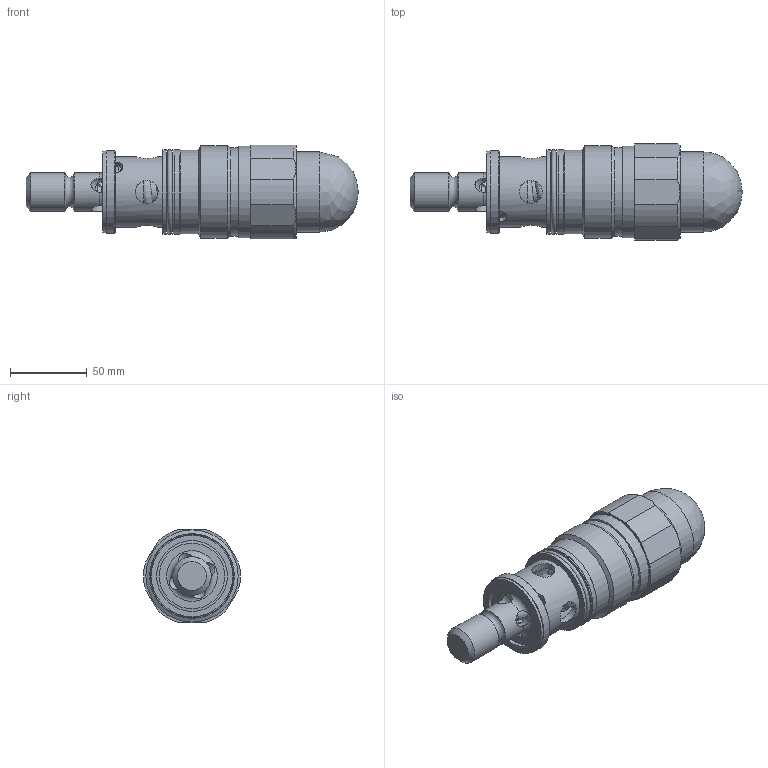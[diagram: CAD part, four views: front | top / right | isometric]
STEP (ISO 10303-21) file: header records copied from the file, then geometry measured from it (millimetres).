
FILE_DESCRIPTION(/* description */ (''),/* implementation_level */ '2;1');
FILE_NAME(/* name */ 'DBDS30K-1XJ.stp',/* time_stamp */ '2023-09-01T18:07:47+08:00',/* author */ (''),/* organization */ (''),/* preprocessor_version */ 'ST-DEVELOPER v16.7',/* originating_system */ 'SIEMENS PLM Software NX 12.0',/* authorisation */ '');
FILE_SCHEMA (('AUTOMOTIVE_DESIGN { 1 0 10303 214 3 1 1 1 }'));
Length unit declared in the file: millimetre
Products named in the file (1): DBDS30K
Bounding box: 215.77 x 63 x 61 mm (x, y, z)
Volume: 260768.7 mm3; surface area: 104115.3 mm2
Topology: 16 solids, 16 shells, 358 faces, 795 edges, 489 vertices
Faces by surface type: cylinder 115, plane 108, cone 96, torus 21, bspline 17, sphere 1
Full cylindrical faces by diameter (mm): 1 x1, 2 x1, 4.2 x1, 5 x1, 5.4 x2, 5.5 x1, 6.8 x1, 9 x1, 10 x3, 10.4 x1, 12.4 x1, 13.4 x1, 14.4 x5, 14.7 x1, 15 x13, 15.2 x2, 15.7 x2, 17 x1, 19.7 x1, 20 x1, 25 x2, 28 x1, 28.5 x1, 35 x1, 36.5 x1, 37.3 x1, 38 x1, 38.5 x3, 40.5 x1, 41 x2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
Entity records: 22962 total; most frequent: CARTESIAN_POINT 15936, DIRECTION 1395, ORIENTED_EDGE 1210, AXIS2_PLACEMENT_3D 645, EDGE_CURVE 605, EDGE_LOOP 557, VERTEX_POINT 457, FACE_BOUND 402
